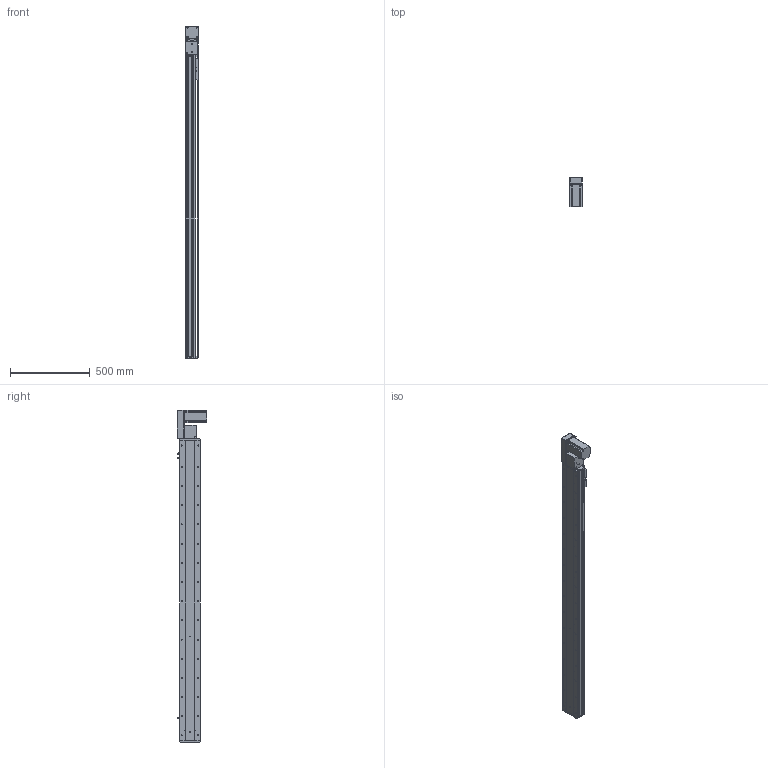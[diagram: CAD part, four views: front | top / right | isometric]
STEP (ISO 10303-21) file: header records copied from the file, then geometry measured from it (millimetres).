
FILE_DESCRIPTION (( 'STEP AP214' ), '1' );
FILE_NAME ('KSD130B-S1650-MRB-CM.STEP', '2019-11-15T07:45:25', ( '微软用户' ), ( '微软中国' ), 'SwSTEP 2.0', 'SolidWorks 2014', '' );
FILE_SCHEMA (( 'AUTOMOTIVE_DESIGN' ));
Length unit declared in the file: millimetre
Products named in the file (12): 台达ECMA－C20807AS伺服电机; 130宽模组保护罩上下左右折-同步带; 130宽模组马达安装板连板左右折同步带; 覜茼え100遵圉猾敕; U倰嫖萇EEㄜSX672; 130宽盖板半封闭同步带-1650行程; 130宽马达安装板同步带右-改镜向_默认<按加工>; 130宽马达安装板同步带半封闭; 130宽同步带安装座半封闭; 130宽端盖同步带半封闭; 130宽底板半封闭同步带-1650行程; KSD130B-S1650-MRB-CM
Assembly tree (13 placements, depth 2):
  KSD130B-S1650-MRB-CM
    130宽底板半封闭同步带-1650行程
    130宽端盖同步带半封闭
    130宽同步带安装座半封闭
    130宽马达安装板同步带半封闭
    130宽马达安装板同步带右-改镜向_默认<按加工>
    130宽盖板半封闭同步带-1650行程
    U倰嫖萇EEㄜSX672  x3
    覜茼え100遵圉猾敕
    130宽模组马达安装板连板左右折同步带
    130宽模组保护罩上下左右折-同步带
    台达ECMA－C20807AS伺服电机
Bounding box: 81 x 184.8 x 2077 mm (x, y, z)
Volume: 6742045.2 mm3; surface area: 1899858.4 mm2
Topology: 14 solids, 14 shells, 1697 faces, 4921 edges, 3121 vertices
Faces by surface type: cylinder 832, plane 646, cone 219
Entity records: 57499 total; most frequent: CARTESIAN_POINT 11046, DIRECTION 8675, ORIENTED_EDGE 8390, EDGE_CURVE 4195, AXIS2_PLACEMENT_3D 3190, VERTEX_POINT 2745, LINE 2295, VECTOR 2295
